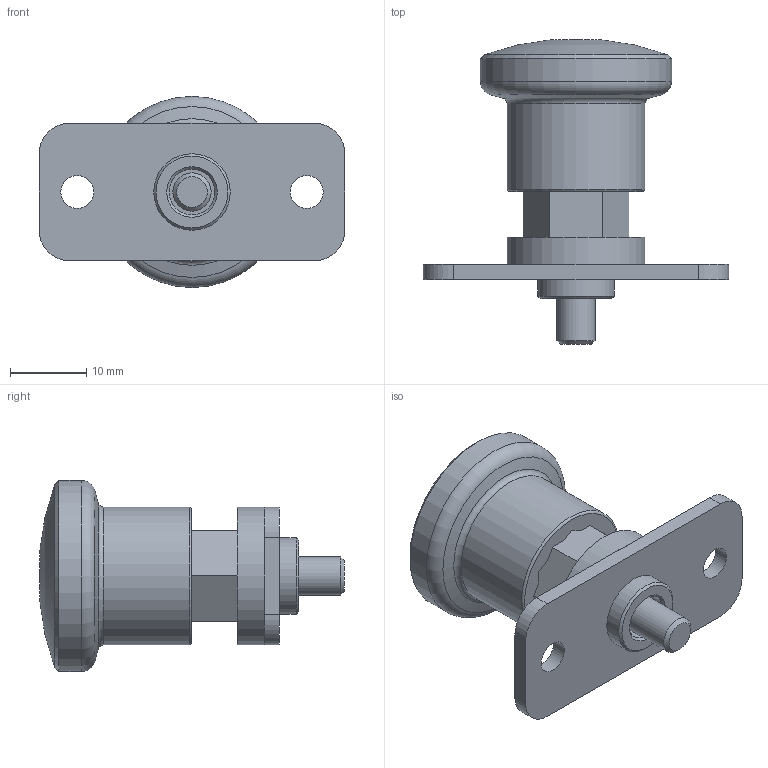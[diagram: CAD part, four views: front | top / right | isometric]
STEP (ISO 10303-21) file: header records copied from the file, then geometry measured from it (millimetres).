
FILE_DESCRIPTION( ( 'STEP AP203' ), '1' );
FILE_NAME( 'C:/Temp/Ganter_Step_05_03_2020/data/3_1/gn822_9/gn822_9_cn/Stainless Steel-Mini indexing plunger GN 822.9-5-12-CN (activated).stp', '2020-03-12T09:25:15', ( 'License CC BY-ND 4.0' ), ( 'CADENAS' ), ' ', 'PARTsolutions', ' ' );
FILE_SCHEMA( ( 'CONFIG_CONTROL_DESIGN' ) );
Length unit declared in the file: millimetre
Products named in the file (3): Stainless Steel-Mini indexing plunger GN 822.9-5-12-CN (activated); _Stainless Steel-Mini indexing plunger GN 822.9-5-12-CN (deactivated)_1; _Stainless Steel-Mini indexing plunger GN 822.9-5-12-CN (deactivated)_2
Assembly tree (2 placements, depth 2):
  Stainless Steel-Mini indexing plunger GN 822.9-5-12-CN (activated)
    _Stainless Steel-Mini indexing plunger GN 822.9-5-12-CN (deactivated)_1
    _Stainless Steel-Mini indexing plunger GN 822.9-5-12-CN (deactivated)_2
Bounding box: 40 x 39.87 x 25 mm (x, y, z)
Volume: 8611.3 mm3; surface area: 6292 mm2
Topology: 2 solids, 2 shells, 81 faces, 190 edges, 120 vertices
Faces by surface type: plane 47, cylinder 16, cone 14, torus 3, sphere 1
Full cylindrical faces by diameter (mm): 4 x1, 4.2 x1, 4.3 x2, 5 x1, 6 x2, 10 x1, 12 x1, 18 x2, 25 x1
Entity records: 2348 total; most frequent: CARTESIAN_POINT 482, DIRECTION 362, ORIENTED_EDGE 326, EDGE_CURVE 163, AXIS2_PLACEMENT_3D 133, EDGE_LOOP 118, VERTEX_POINT 117, FACE_OUTER_BOUND 97
